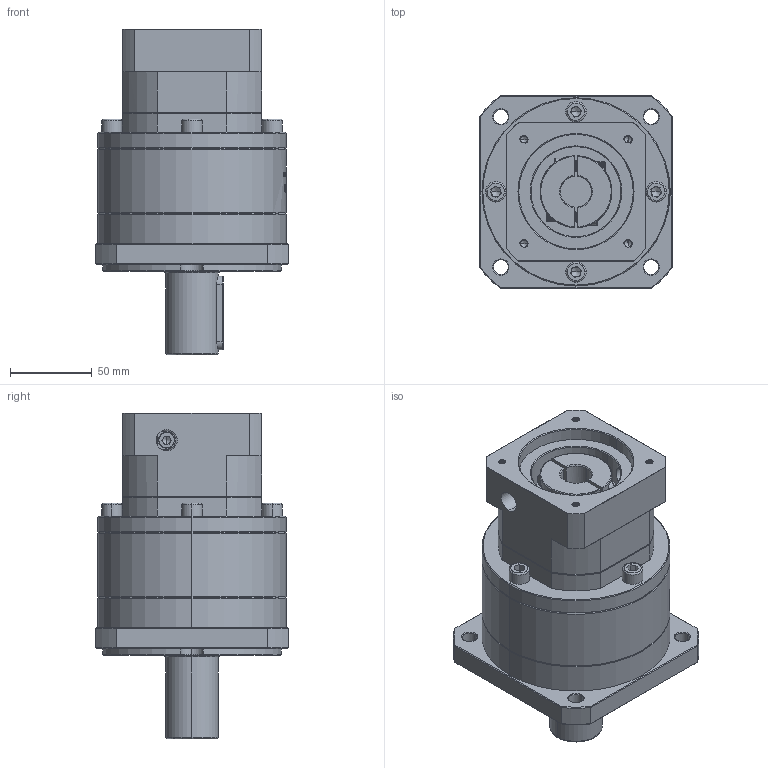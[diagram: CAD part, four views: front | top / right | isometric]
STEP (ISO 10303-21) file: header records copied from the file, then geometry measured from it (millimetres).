
FILE_DESCRIPTION (( 'STEP AP214' ), '1' );
FILE_NAME ('ZF120A-D32-L2-19-70-90-M5.step', '2023-03-07T15:02:09', ( '' ), ( 'Microsoft' ), 'SwSTEP 2.0', 'SolidWorks 2016', '' );
FILE_SCHEMA (( 'AUTOMOTIVE_DESIGN' ));
Length unit declared in the file: millimetre
Products named in the file (1): ZF120A-D32-L2-19-70-90-M5
Bounding box: 118 x 118 x 199 mm (x, y, z)
Volume: 1292924.9 mm3; surface area: 126129.8 mm2
Topology: 5 solids, 5 shells, 1906 faces, 5026 edges, 3209 vertices
Faces by surface type: plane 877, cylinder 396, bspline 336, cone 297
Entity records: 104553 total; most frequent: CARTESIAN_POINT 40387, ORIENTED_EDGE 9992, DIRECTION 7601, EDGE_CURVE 4996, VERTEX_POINT 3209, LINE 2731, VECTOR 2731, AXIS2_PLACEMENT_3D 2435
